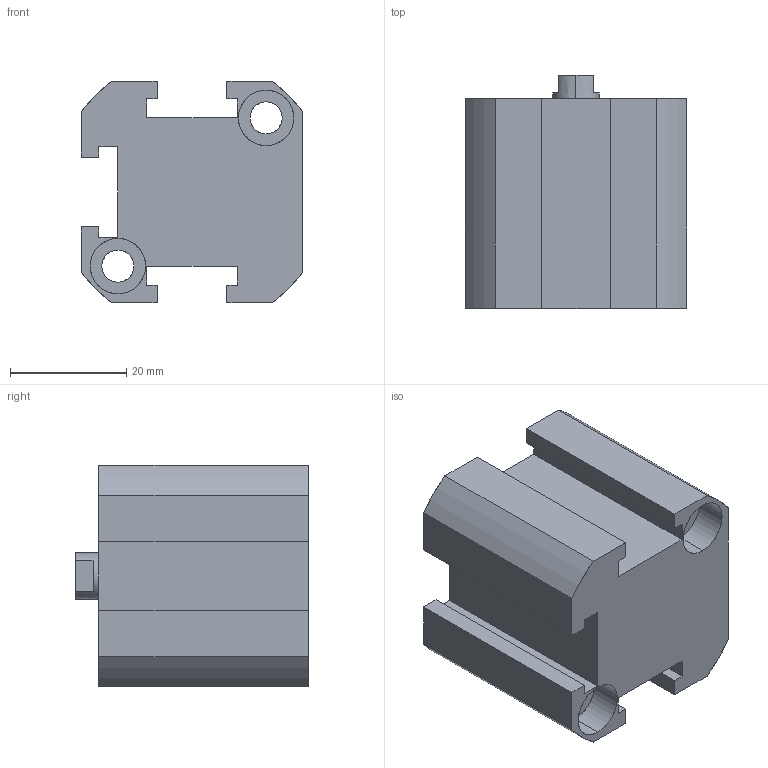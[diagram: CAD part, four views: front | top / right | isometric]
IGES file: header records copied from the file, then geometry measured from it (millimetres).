
Start section: SolidWorks IGES file using analytic representation for surfaces
Global section: file name: C:\Users\Toshiba\Desktop\XC#2-20D-10.IGS; native system: SolidWorks 2014; preprocessor: SolidWorks 2014; author: Toshiba; date: 160523.160650; units: millimetre
Bounding box: 38 x 40 x 38 mm (x, y, z)
Surface area: 11600.1 mm2 (no closed solid volume)
Topology: 0 solids, 0 shells, 89 faces, 1259 edges, 1253 vertices
Faces by surface type: revolution 45, bspline 44
